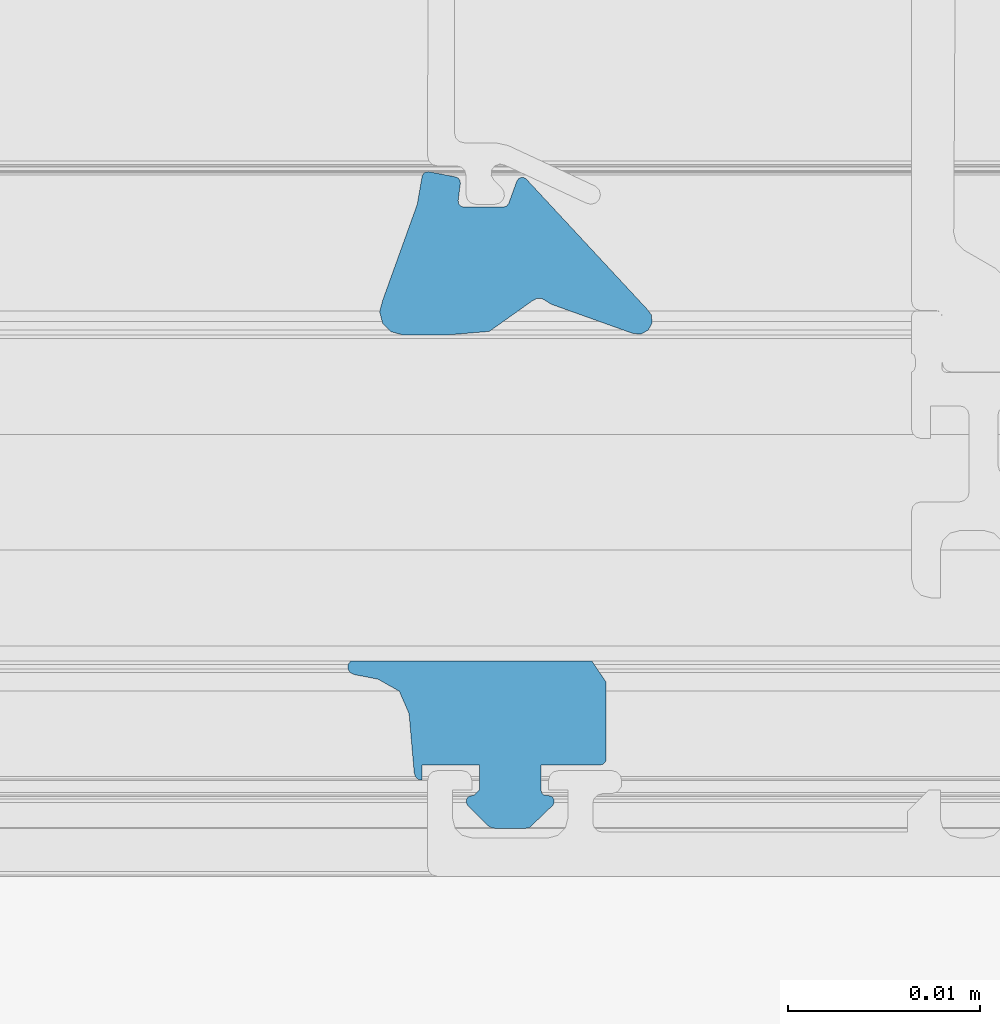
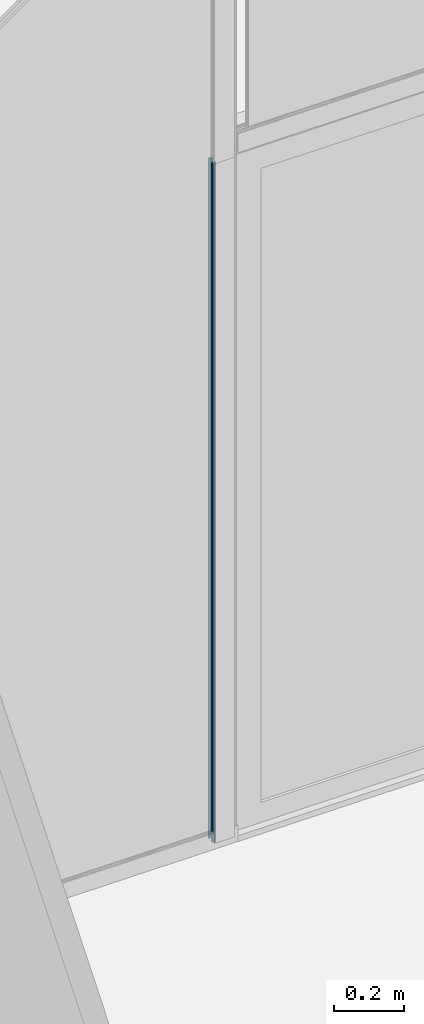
# One storey, part 18 of 69: 1 building element part, 2 elements without a shape of their own.
"""IFC2X3 building model written with IfcOpenShell, lengths in millimetres."""

from ifc_helpers import new_model, entity, si_unit, converted_unit, derived_unit, money_unit, direction, frame, origin_with_axes, place, context, subcontext, project, spatial, faceted_brep, material, type_object, element, aggregate, save


model = new_model("IFC2X3")

# Units and contexts
model_context = context("Model", 3, precision=0.01, world=origin_with_axes(), true_north=direction((0.0, 1.0)))
body_context = subcontext(model_context, "Body", "Model", "MODEL_VIEW")
ifc_project = project(units=[si_unit("LENGTHUNIT", "METRE", prefix="MILLI"), si_unit("AREAUNIT", "SQUARE_METRE"), si_unit("VOLUMEUNIT", "CUBIC_METRE"), converted_unit("PLANEANGLEUNIT", "DEGREE", entity("IfcPlaneAngleMeasure", 0.0174532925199), si_unit("PLANEANGLEUNIT", "RADIAN"), dimensions=[0, 0, 0, 0, 0, 0, 0]), si_unit("SOLIDANGLEUNIT", "STERADIAN"), money_unit("EUR"), converted_unit("TIMEUNIT", "Year", entity("IfcTimeMeasure", 31556926.0), si_unit("TIMEUNIT", "SECOND"), dimensions=[0, 0, 1, 0, 0, 0, 0]), si_unit("MASSUNIT", "GRAM", prefix="KILO"), si_unit("THERMODYNAMICTEMPERATUREUNIT", "DEGREE_CELSIUS"), si_unit("LUMINOUSINTENSITYUNIT", "LUMEN"), si_unit("ENERGYUNIT", "JOULE", prefix="MEGA"), derived_unit("THERMALCONDUCTANCEUNIT", [(si_unit("POWERUNIT", "WATT"), 1), (si_unit("LENGTHUNIT", "METRE"), -1), (si_unit("THERMODYNAMICTEMPERATUREUNIT", "KELVIN"), -1)]), derived_unit("SPECIFICHEATCAPACITYUNIT", [(si_unit("ENERGYUNIT", "JOULE"), 1), (si_unit("MASSUNIT", "GRAM", prefix="KILO"), -1), (si_unit("THERMODYNAMICTEMPERATUREUNIT", "KELVIN"), -1)]), derived_unit("MASSDENSITYUNIT", [(si_unit("MASSUNIT", "GRAM", prefix="KILO"), 1), (si_unit("VOLUMEUNIT", "CUBIC_METRE"), -1)])], contexts=[model_context])

# Site, building, storey
site_placement = place(None, origin_with_axes())
site = spatial("IfcSite", under=ifc_project, at=site_placement, Name="Puškini 31, Narva", CompositionType="ELEMENT")
building_placement = place(site_placement, origin_with_axes())
building = spatial("IfcBuilding", under=site, at=building_placement, Name="Narva Riigigümnaasium", CompositionType="ELEMENT")
storey_placement = place(building_placement, origin_with_axes())
storey = spatial("IfcBuildingStorey", under=building, at=storey_placement, Name="1.korrus 0.00", CompositionType="ELEMENT", Elevation=0.0)

# Curtain wall, member, building element part
curtain_wall_type = type_object("IfcCurtainWallType", Name="Curtain Wall Type", PredefinedType="NOTDEFINED")
curtain_wall_placement = place(storey_placement, frame((18229.9603698, 152620.000001, -0.397158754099), z_axis=(0.0, 0.0, 1.0), x_axis=(1.0, 0.0, 0.0)))
curtain_wall = element("IfcCurtainWall", 1, at=curtain_wall_placement, inside=storey, type_object=curtain_wall_type, Name="G-KLF-01-1")
member_type = type_object("IfcMemberType", Name="82 x 45", PredefinedType="MULLION")
member_placement = place(curtain_wall_placement, frame((-941.130133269, 0.0, 0.0), z_axis=(0.0, 0.0, 1.0), x_axis=(1.0, 0.0, 0.0)))
member = element("IfcMember", 2, at=member_placement, type_object=member_type, Name="G-SKLF-01-raam", ObjectType="MULLION")
aggregate(curtain_wall, [member])
ifc_material = material(Name="Membraan - Veekindel")
building_element_part_placement = place(member_placement, origin_with_axes())
building_element_part = element("IfcBuildingElementPart", 3, at=building_element_part_placement, material=ifc_material, Name="Membraan - Veekindel", context=body_context, shape_type="Brep", body=[
    faceted_brep([(-74.9898926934, -16.6230552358, 20.0), (-72.7204882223, -15.0100099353, 20.0), (-72.7204882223, -15.0100099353, 2400.00003439), (-74.9898926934, -16.6230552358, 2400.00003439), (-77.1927259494, -16.806401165, 20.0), (-79.5038972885, -16.8013439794, 20.0), (-80.1029794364, -16.6395947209, 20.0), (-80.5411647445, -16.2002134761, 20.0), (-80.7012805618, -15.6006926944, 20.0), (-80.5405112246, -15.001346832, 20.0), (-78.7418652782, -10.0036443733, 20.0), (-78.4882789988, -8.54540440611, 20.0), (-78.4207620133, -8.40475732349, 20.0), (-78.2917480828, -8.3170330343, 20.0), (-78.1361285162, -8.30595622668, 20.0), (-76.7361285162, -8.57808865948, 20.0), (-76.601588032, -8.64188392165, 20.0), (-76.5142922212, -8.76250903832, 20.0), (-76.4957458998, -8.91024871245, 20.0), (-76.6099827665, -9.81277248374, 20.0), (-76.5838261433, -9.97813443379, 20.0), (-76.4731258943, -10.1037298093, 20.0), (-76.3123574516, -10.1504443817, 20.0), (-74.2580290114, -10.1504443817, 20.0), (-74.0859560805, -10.096189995, 20.0), (-73.9761212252, -9.95305042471, 20.0), (-73.5556584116, -8.79783833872, 20.0), (-73.4722984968, -8.67558063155, 20.0), (-73.3406152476, -8.60808734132, 20.0), (-73.192689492, -8.61180126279, 20.0), (-73.0645590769, -8.68581760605, 20.0), (-66.8142070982, -15.4145273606, 20.0), (-66.5501763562, -15.7474287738, 20.0), (-66.5093924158, -16.1703616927, 20.0), (-66.7049453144, -16.5475813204, 20.0), (-67.0740702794, -16.7580150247, 20.0), (-67.4982927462, -16.7341218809, 20.0), (-71.7536994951, -15.2121692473, 20.0), (-72.0437237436, -15.0307647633, 20.0), (-72.2558878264, -14.9074571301, 20.0), (-72.5011668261, -14.8999349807, 20.0), (-72.5011668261, -14.8999349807, 2400.00003439), (-72.2558878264, -14.9074571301, 2400.00003439), (-72.0437237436, -15.0307647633, 2400.00003439), (-71.7536994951, -15.2121692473, 2400.00003439), (-67.4982927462, -16.7341218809, 2400.00003439), (-67.0740702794, -16.7580150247, 2400.00003439), (-66.7049453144, -16.5475813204, 2400.00003439), (-66.5093924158, -16.1703616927, 2400.00003439), (-66.5501763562, -15.7474287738, 2400.00003439), (-66.8142070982, -15.4145273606, 2400.00003439), (-73.0645590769, -8.68581760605, 2400.00003439), (-73.192689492, -8.61180126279, 2400.00003439), (-73.3406152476, -8.60808734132, 2400.00003439), (-73.4722984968, -8.67558063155, 2400.00003439), (-73.5556584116, -8.79783833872, 2400.00003439), (-73.9761212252, -9.95305042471, 2400.00003439), (-74.0859560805, -10.096189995, 2400.00003439), (-74.2580290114, -10.1504443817, 2400.00003439), (-76.3123574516, -10.1504443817, 2400.00003439), (-76.4731258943, -10.1037298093, 2400.00003439), (-76.5838261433, -9.97813443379, 2400.00003439), (-76.6099827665, -9.81277248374, 2400.00003439), (-76.4957458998, -8.91024871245, 2400.00003439), (-76.5142922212, -8.76250903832, 2400.00003439), (-76.601588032, -8.64188392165, 2400.00003439), (-76.7361285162, -8.57808865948, 2400.00003439), (-78.1361285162, -8.30595622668, 2400.00003439), (-78.2917480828, -8.3170330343, 2400.00003439), (-78.4207620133, -8.40475732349, 2400.00003439), (-78.4882789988, -8.54540440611, 2400.00003439), (-78.7418652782, -10.0036443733, 2400.00003439), (-80.5405112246, -15.001346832, 2400.00003439), (-80.7012805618, -15.6006926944, 2400.00003439), (-80.5411647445, -16.2002134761, 2400.00003439), (-80.1029794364, -16.6395947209, 2400.00003439), (-79.5038972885, -16.8013439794, 2400.00003439), (-77.1927259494, -16.806401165, 2400.00003439)], [[[0, 1, 2, 3]], [[1, 0, 4, 5, 6, 7, 8, 9, 10, 11, 12, 13, 14, 15, 16, 17, 18, 19, 20, 21, 22, 23, 24, 25, 26, 27, 28, 29, 30, 31, 32, 33, 34, 35, 36, 37, 38, 39, 40]], [[1, 40, 41, 2]], [[2, 41, 42, 43, 44, 45, 46, 47, 48, 49, 50, 51, 52, 53, 54, 55, 56, 57, 58, 59, 60, 61, 62, 63, 64, 65, 66, 67, 68, 69, 70, 71, 72, 73, 74, 75, 76, 77, 3]], [[4, 0, 3, 77]], [[5, 4, 77, 76]], [[6, 5, 76, 75]], [[7, 6, 75, 74]], [[8, 7, 74, 73]], [[9, 8, 73, 72]], [[10, 9, 72, 71]], [[11, 10, 71, 70]], [[12, 11, 70, 69]], [[13, 12, 69, 68]], [[14, 13, 68, 67]], [[15, 14, 67, 66]], [[16, 15, 66, 65]], [[17, 16, 65, 64]], [[18, 17, 64, 63]], [[19, 18, 63, 62]], [[20, 19, 62, 61]], [[21, 20, 61, 60]], [[22, 21, 60, 59]], [[23, 22, 59, 58]], [[24, 23, 58, 57]], [[25, 24, 57, 56]], [[26, 25, 56, 55]], [[27, 26, 55, 54]], [[28, 27, 54, 53]], [[29, 28, 53, 52]], [[30, 29, 52, 51]], [[31, 30, 51, 50]], [[32, 31, 50, 49]], [[33, 32, 49, 48]], [[34, 33, 48, 47]], [[35, 34, 47, 46]], [[36, 35, 46, 45]], [[37, 36, 45, 44]], [[38, 37, 44, 43]], [[39, 38, 43, 42]], [[40, 39, 42, 41]]]),
    faceted_brep([(-72.8904310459, -42.4618935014, 20.0), (-71.6876987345, -41.3119145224, 20.0), (-71.6876987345, -41.3119145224, 2400.00003439), (-72.8904310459, -42.4618935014, 2400.00003439), (-73.0818844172, -42.5, 20.0), (-74.717932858, -42.5, 20.0), (-74.9093558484, -42.461906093, 20.0), (-75.0716106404, -42.353428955, 20.0), (-76.1122970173, -41.3120098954, 20.0), (-76.1942964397, -41.1583915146, 20.0), (-76.1771585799, -40.9851032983, 20.0), (-76.0666568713, -40.8505228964, 20.0), (-75.9000173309, -40.799988, 20.0), (-75.800021, -40.799988, 20.0), (-75.500021, -40.499988, 20.0), (-75.500021, -39.200012, 20.0), (-76.5000210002, -39.200012, 20.0), (-78.5000022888, -39.2000007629, 20.0), (-78.5000022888, -40.0000359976, 20.0), (-78.7000161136, -39.9464425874, 20.0), (-78.8464370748, -39.8000230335, 20.0), (-78.9000324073, -39.6000097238, 20.0), (-79.1693613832, -36.5266395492, 20.0), (-79.6755028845, -35.3629012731, 20.0), (-80.7800222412, -34.7379988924, 20.0), (-82.041102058, -34.4928127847, 20.0), (-82.2412066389, -34.3909158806, 20.0), (-82.3536959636, -34.1965683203, 20.0), (-82.3423779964, -33.9722990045, 20.0), (-82.2108941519, -33.7902637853, 20.0), (-69.647137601, -33.7902637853, 20.0), (-68.8997554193, -34.9006000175, 20.0), (-68.9000321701, -38.9000291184, 20.0), (-68.9402207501, -39.0500149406, 20.0), (-69.0500179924, -39.159812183, 20.0), (-69.2000038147, -39.2000007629, 20.0), (-71.30004, -39.2000007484, 20.0), (-72.30004, -39.200012, 20.0), (-72.30004, -40.499988, 20.0), (-72.2598476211, -40.649988, 20.0), (-72.15004, -40.7597956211, 20.0), (-72.00004, -40.799988, 20.0), (-71.900046, -40.799988, 20.0), (-71.7334350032, -40.8505059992, 20.0), (-71.6229356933, -40.9850466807, 20.0), (-71.6057623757, -41.1582990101, 20.0), (-71.6057623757, -41.1582990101, 2400.00003439), (-71.6229356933, -40.9850466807, 2400.00003439), (-71.7334350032, -40.8505059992, 2400.00003439), (-71.900046, -40.799988, 2400.00003439), (-72.00004, -40.799988, 2400.00003439), (-72.15004, -40.7597956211, 2400.00003439), (-72.2598476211, -40.649988, 2400.00003439), (-72.30004, -40.499988, 2400.00003439), (-72.30004, -39.200012, 2400.00003439), (-71.30004, -39.2000007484, 2400.00003439), (-69.2000038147, -39.2000007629, 2400.00003439), (-69.0500179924, -39.159812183, 2400.00003439), (-68.9402207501, -39.0500149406, 2400.00003439), (-68.9000321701, -38.9000291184, 2400.00003439), (-68.8997554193, -34.9006000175, 2400.00003439), (-69.647137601, -33.7902637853, 2400.00003439), (-82.2108941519, -33.7902637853, 2400.00003439), (-82.3423779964, -33.9722990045, 2400.00003439), (-82.3536959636, -34.1965683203, 2400.00003439), (-82.2412066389, -34.3909158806, 2400.00003439), (-82.041102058, -34.4928127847, 2400.00003439), (-80.7800222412, -34.7379988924, 2400.00003439), (-79.6755028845, -35.3629012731, 2400.00003439), (-79.1693613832, -36.5266395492, 2400.00003439), (-78.9000324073, -39.6000097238, 2400.00003439), (-78.8464370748, -39.8000230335, 2400.00003439), (-78.7000161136, -39.9464425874, 2400.00003439), (-78.5000022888, -40.0000359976, 2400.00003439), (-78.5000022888, -39.2000007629, 2400.00003439), (-76.5000210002, -39.200012, 2400.00003439), (-75.500021, -39.200012, 2400.00003439), (-75.500021, -40.499988, 2400.00003439), (-75.800021, -40.799988, 2400.00003439), (-75.9000173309, -40.799988, 2400.00003439), (-76.0666568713, -40.8505228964, 2400.00003439), (-76.1771585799, -40.9851032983, 2400.00003439), (-76.1942964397, -41.1583915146, 2400.00003439), (-76.1122970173, -41.3120098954, 2400.00003439), (-75.0716106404, -42.353428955, 2400.00003439), (-74.9093558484, -42.461906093, 2400.00003439), (-74.717932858, -42.5, 2400.00003439), (-73.0818844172, -42.5, 2400.00003439)], [[[0, 1, 2, 3]], [[1, 0, 4, 5, 6, 7, 8, 9, 10, 11, 12, 13, 14, 15, 16, 17, 18, 19, 20, 21, 22, 23, 24, 25, 26, 27, 28, 29, 30, 31, 32, 33, 34, 35, 36, 37, 38, 39, 40, 41, 42, 43, 44, 45]], [[1, 45, 46, 2]], [[2, 46, 47, 48, 49, 50, 51, 52, 53, 54, 55, 56, 57, 58, 59, 60, 61, 62, 63, 64, 65, 66, 67, 68, 69, 70, 71, 72, 73, 74, 75, 76, 77, 78, 79, 80, 81, 82, 83, 84, 85, 86, 87, 3]], [[4, 0, 3, 87]], [[5, 4, 87, 86]], [[6, 5, 86, 85]], [[7, 6, 85, 84]], [[8, 7, 84, 83]], [[9, 8, 83, 82]], [[10, 9, 82, 81]], [[11, 10, 81, 80]], [[12, 11, 80, 79]], [[13, 12, 79, 78]], [[14, 13, 78, 77]], [[15, 14, 77, 76]], [[16, 15, 76, 75]], [[17, 16, 75, 74]], [[18, 17, 74, 73]], [[19, 18, 73, 72]], [[20, 19, 72, 71]], [[21, 20, 71, 70]], [[22, 21, 70, 69]], [[23, 22, 69, 68]], [[24, 23, 68, 67]], [[25, 24, 67, 66]], [[26, 25, 66, 65]], [[27, 26, 65, 64]], [[28, 27, 64, 63]], [[29, 28, 63, 62]], [[30, 29, 62, 61]], [[31, 30, 61, 60]], [[32, 31, 60, 59]], [[33, 32, 59, 58]], [[34, 33, 58, 57]], [[35, 34, 57, 56]], [[36, 35, 56, 55]], [[37, 36, 55, 54]], [[38, 37, 54, 53]], [[39, 38, 53, 52]], [[40, 39, 52, 51]], [[41, 40, 51, 50]], [[42, 41, 50, 49]], [[43, 42, 49, 48]], [[44, 43, 48, 47]], [[45, 44, 47, 46]]]),
])
aggregate(member, [building_element_part])

save(model, "model.ifc")
